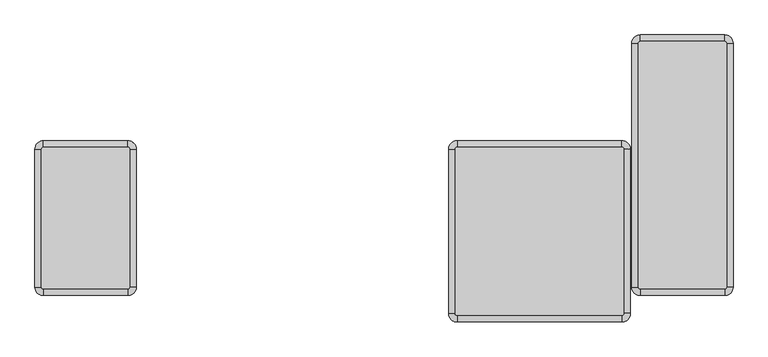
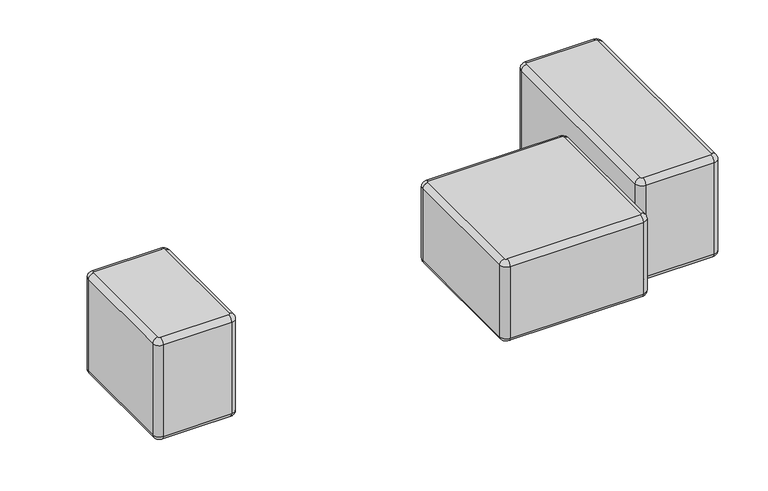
"""IFC4 building model written with IfcOpenShell, lengths in millimetres: furniture geometry, Blks_Mueb_Muuto_Sofá de 3 Plazas Softblocks : Único."""

from ifc_helpers import new_model, si_unit, point, frame, origin, place, context, project, spatial, circle_curve, ellipse_curve, trimmed, source, transform, mapped, element, save
from ifc_brep_helpers import plane_surface, cylinder_surface, revolved_surface, advanced_brep


def furniture_417ada3d(model_context):
    return source(origin(), model_context, "Body", "AdvancedBrep", [
        advanced_brep(
        [(1296.8131687, 511.6361706, 535.0), (1289.9760726, 518.4732668, 535.0), (969.9760726, 518.4732668, 535.0), (963.1389765, 511.6361706, 535.0), (963.1389765, -411.3638294, 535.0), (969.9760726, -418.2009255, 535.0), (1289.9760726, -418.2009255, 535.0), (1296.8131687, -411.3638294, 535.0), (1289.9760726, 518.4732668, 35.0), (1296.8131687, 511.6361706, 35.0), (1296.8131687, -411.3638294, 35.0), (1289.9760726, -418.2009255, 35.0), (969.9760726, -418.2009255, 35.0), (963.1389765, -411.3638294, 35.0), (963.1389765, 511.6361706, 35.0), (969.9760726, 518.4732668, 35.0), (1289.9760726, 543.4075429, 58.1884058), (1321.7474449, 511.6361706, 58.1884058), (1289.9760726, 543.4075429, 511.8115942), (1321.7474449, 511.6361706, 511.8115942), (1289.9760726, 551.6361706, 285.0000705), (1329.9760726, 511.6361706, 285.0000712), (969.9760726, 543.4075429, 58.1884058), (969.9760726, 543.4075429, 511.8115942), (969.9760726, 551.6361706, 285.0), (938.2047003, 511.6361706, 58.1884058), (938.2047003, 511.6361706, 511.8115942), (929.9760726, 511.6361706, 285.0000416), (938.2047003, -411.3638294, 58.1884058), (938.2047003, -411.3638294, 511.8115942), (929.9760726, -411.3638294, 285.0), (969.9760726, -443.1352016, 58.1884058), (969.9760726, -443.1352016, 511.8115942), (969.9760726, -451.3638294, 285.0000609), (1289.9760726, -443.1352016, 58.1884058), (1289.9760726, -443.1352016, 511.8115942), (1289.9760726, -451.3638294, 285.0), (1321.7474449, -411.3638294, 58.1884058), (1321.7474449, -411.3638294, 511.8115942), (1329.9760726, -411.3638294, 285.0000721)],
        [
            (0, 1, circle_curve(frame((1289.9760726, 511.6361706, 535.0), z_axis=(0.0, 0.0, 1.0), x_axis=(1.0, 0.0, 0.0)), 6.8370961)),
            (1, 2),
            (2, 3, circle_curve(frame((969.9760726, 511.6361706, 535.0), z_axis=(0.0, 0.0, 1.0), x_axis=(0.0, 1.0, 0.0)), 6.8370961)),
            (3, 4),
            (4, 5, circle_curve(frame((969.9760726, -411.3638294, 535.0), z_axis=(0.0, 0.0, 1.0), x_axis=(-1.0, 0.0, 0.0)), 6.8370961)),
            (5, 6),
            (6, 7, circle_curve(frame((1289.9760726, -411.3638294, 535.0), z_axis=(0.0, 0.0, 1.0), x_axis=(0.0, -1.0, 0.0)), 6.8370961)),
            (7, 0),
            (8, 9, circle_curve(frame((1289.9760726, 511.6361706, 35.0), z_axis=(0.0, 0.0, -1.0), x_axis=(1.0, 0.0, 0.0)), 6.8370961)),
            (9, 10),
            (10, 11, circle_curve(frame((1289.9760726, -411.3638294, 35.0), z_axis=(0.0, 0.0, -1.0), x_axis=(0.0, -1.0, 0.0)), 6.8370961)),
            (11, 12),
            (12, 13, circle_curve(frame((969.9760726, -411.3638294, 35.0), z_axis=(0.0, 0.0, -1.0), x_axis=(-1.0, 0.0, 0.0)), 6.8370961)),
            (13, 14),
            (14, 15, circle_curve(frame((969.9760726, 511.6361706, 35.0), z_axis=(0.0, 0.0, -1.0), x_axis=(0.0, 1.0, 0.0)), 6.8370961)),
            (15, 8),
            (8, 16, circle_curve(frame((1289.9760726, 518.4732668, 60.0), z_axis=(1.0, 0.0, 0.0), x_axis=(0.0, -1.0, 0.0)), 25.0)),
            (16, 17, circle_curve(frame((1289.9760726, 511.6361706, 58.1884058), z_axis=(0.0, 0.0, -1.0), x_axis=(1.0, 0.0, 0.0)), 31.7713723)),
            (17, 9, circle_curve(frame((1296.8131687, 511.6361706, 60.0), z_axis=(0.0, 1.0, 0.0), x_axis=(-1.0, 0.0, 0.0)), 25.0)),
            (18, 1, circle_curve(frame((1289.9760726, 518.4732668, 510.0), z_axis=(1.0, 0.0, 0.0), x_axis=(0.0, -1.0, 0.0)), 25.0)),
            (0, 19, circle_curve(frame((1296.8131687, 511.6361706, 510.0), z_axis=(0.0, 1.0, 0.0), x_axis=(-1.0, 0.0, 0.0)), 25.0)),
            (19, 18, circle_curve(frame((1289.9760726, 511.6361706, 511.8115942), z_axis=(0.0, 0.0, 1.0), x_axis=(1.0, 0.0, 0.0)), 31.7713723)),
            (16, 20, circle_curve(frame((1289.9760726, -2578.3638294, 285.0), z_axis=(1.0, 0.0, 0.0), x_axis=(0.0, -1.0, 0.0)), 3130.0)),
            (20, 18, circle_curve(frame((1289.9760726, -2578.3638294, 285.0), z_axis=(1.0, 0.0, 0.0), x_axis=(0.0, -1.0, 0.0)), 3130.0)),
            (19, 21, circle_curve(frame((-1800.0239274, 511.6361706, 285.0), z_axis=(0.0, 1.0, 0.0), x_axis=(-1.0, 0.0, 0.0)), 3130.0)),
            (21, 17, circle_curve(frame((-1800.0239274, 511.6361706, 285.0), z_axis=(0.0, 1.0, 0.0), x_axis=(-1.0, 0.0, 0.0)), 3130.0)),
            (15, 22, circle_curve(frame((969.9760726, 518.4732668, 60.0), z_axis=(1.0, 0.0, 0.0), x_axis=(0.0, -1.0, 0.0)), 25.0)),
            (22, 16),
            (18, 23),
            (23, 2, circle_curve(frame((969.9760726, 518.4732668, 510.0), z_axis=(1.0, 0.0, 0.0), x_axis=(0.0, -1.0, 0.0)), 25.0)),
            (22, 24, circle_curve(frame((969.9760726, -2578.3638294, 285.0), z_axis=(1.0, 0.0, 0.0), x_axis=(0.0, -1.0, 0.0)), 3130.0)),
            (24, 23, circle_curve(frame((969.9760726, -2578.3638294, 285.0), z_axis=(1.0, 0.0, 0.0), x_axis=(0.0, -1.0, 0.0)), 3130.0)),
            (14, 25, circle_curve(frame((963.1389765, 511.6361706, 60.0), z_axis=(0.0, 1.0, 0.0), x_axis=(1.0, 0.0, 0.0)), 25.0)),
            (25, 22, circle_curve(frame((969.9760726, 511.6361706, 58.1884058), z_axis=(0.0, 0.0, -1.0), x_axis=(0.0, 1.0, 0.0)), 31.7713723)),
            (23, 26, circle_curve(frame((969.9760726, 511.6361706, 511.8115942), z_axis=(0.0, 0.0, 1.0), x_axis=(0.0, 1.0, 0.0)), 31.7713723)),
            (26, 3, circle_curve(frame((963.1389765, 511.6361706, 510.0), z_axis=(0.0, 1.0, 0.0), x_axis=(1.0, 0.0, 0.0)), 25.0)),
            (25, 27, circle_curve(frame((4059.9760726, 511.6361706, 285.0), z_axis=(0.0, 1.0, 0.0), x_axis=(1.0, 0.0, 0.0)), 3130.0)),
            (27, 26, circle_curve(frame((4059.9760726, 511.6361706, 285.0), z_axis=(0.0, 1.0, 0.0), x_axis=(1.0, 0.0, 0.0)), 3130.0)),
            (13, 28, circle_curve(frame((963.1389765, -411.3638294, 60.0), z_axis=(0.0, 1.0, 0.0), x_axis=(1.0, 0.0, 0.0)), 25.0)),
            (28, 25),
            (26, 29),
            (29, 4, circle_curve(frame((963.1389765, -411.3638294, 510.0), z_axis=(0.0, 1.0, 0.0), x_axis=(1.0, 0.0, 0.0)), 25.0)),
            (28, 30, circle_curve(frame((4059.9760726, -411.3638294, 285.0), z_axis=(0.0, 1.0, 0.0), x_axis=(1.0, 0.0, 0.0)), 3130.0)),
            (30, 29, circle_curve(frame((4059.9760726, -411.3638294, 285.0), z_axis=(0.0, 1.0, 0.0), x_axis=(1.0, 0.0, 0.0)), 3130.0)),
            (12, 31, circle_curve(frame((969.9760726, -418.2009255, 60.0), z_axis=(-1.0, 0.0, 0.0), x_axis=(0.0, 1.0, 0.0)), 25.0)),
            (31, 28, circle_curve(frame((969.9760726, -411.3638294, 58.1884058), z_axis=(0.0, 0.0, -1.0), x_axis=(-1.0, 0.0, 0.0)), 31.7713723)),
            (29, 32, circle_curve(frame((969.9760726, -411.3638294, 511.8115942), z_axis=(0.0, 0.0, 1.0), x_axis=(-1.0, 0.0, 0.0)), 31.7713723)),
            (32, 5, circle_curve(frame((969.9760726, -418.2009255, 510.0), z_axis=(-1.0, 0.0, 0.0), x_axis=(0.0, 1.0, 0.0)), 25.0)),
            (31, 33, circle_curve(frame((969.9760726, 2678.6361706, 285.0), z_axis=(-1.0, 0.0, 0.0), x_axis=(0.0, 1.0, 0.0)), 3130.0)),
            (33, 32, circle_curve(frame((969.9760726, 2678.6361706, 285.0), z_axis=(-1.0, 0.0, 0.0), x_axis=(0.0, 1.0, 0.0)), 3130.0)),
            (11, 34, circle_curve(frame((1289.9760726, -418.2009255, 60.0), z_axis=(-1.0, 0.0, 0.0), x_axis=(0.0, 1.0, 0.0)), 25.0)),
            (34, 31),
            (32, 35),
            (35, 6, circle_curve(frame((1289.9760726, -418.2009255, 510.0), z_axis=(-1.0, 0.0, 0.0), x_axis=(0.0, 1.0, 0.0)), 25.0)),
            (34, 36, circle_curve(frame((1289.9760726, 2678.6361706, 285.0), z_axis=(-1.0, 0.0, 0.0), x_axis=(0.0, 1.0, 0.0)), 3130.0)),
            (36, 35, circle_curve(frame((1289.9760726, 2678.6361706, 285.0), z_axis=(-1.0, 0.0, 0.0), x_axis=(0.0, 1.0, 0.0)), 3130.0)),
            (10, 37, circle_curve(frame((1296.8131687, -411.3638294, 60.0), z_axis=(0.0, -1.0, 0.0), x_axis=(-1.0, 0.0, 0.0)), 25.0)),
            (37, 34, circle_curve(frame((1289.9760726, -411.3638294, 58.1884058), z_axis=(0.0, 0.0, -1.0), x_axis=(0.0, -1.0, 0.0)), 31.7713723)),
            (35, 38, circle_curve(frame((1289.9760726, -411.3638294, 511.8115942), z_axis=(0.0, 0.0, 1.0), x_axis=(0.0, -1.0, 0.0)), 31.7713723)),
            (38, 7, circle_curve(frame((1296.8131687, -411.3638294, 510.0), z_axis=(0.0, -1.0, 0.0), x_axis=(-1.0, 0.0, 0.0)), 25.0)),
            (37, 39, circle_curve(frame((-1800.0239274, -411.3638294, 285.0), z_axis=(0.0, -1.0, 0.0), x_axis=(-1.0, 0.0, 0.0)), 3130.0)),
            (39, 38, circle_curve(frame((-1800.0239274, -411.3638294, 285.0), z_axis=(0.0, -1.0, 0.0), x_axis=(-1.0, 0.0, 0.0)), 3130.0)),
            (17, 37),
            (38, 19),
        ],
        [
            plane_surface(frame((1009.9760726, -411.3638294, 535.0), z_axis=(0.0, 0.0, 1.0), x_axis=(0.0, 1.0, 0.0))),
            plane_surface(frame((1009.9760726, -411.3638294, 35.0), z_axis=(0.0, 0.0, -1.0), x_axis=(0.0, -1.0, 0.0))),
            revolved_surface(trimmed(ellipse_curve(frame((1296.8131687, 511.6361706, 60.0), z_axis=(0.0, -1.0, 0.0), x_axis=(-1.0, 0.0, 0.0)), 25.0, 25.0), [point((1296.8131687, 511.6361706, 35.0))], [point((1321.7474449, 511.6361706, 58.1884058))], True, "CARTESIAN"), (1289.9760726, 511.6361706, 535.0), (0.0, 0.0, 1.0)),
            revolved_surface(trimmed(ellipse_curve(frame((1296.8131687, 511.6361706, 510.0), z_axis=(0.0, -1.0, 0.0), x_axis=(-1.0, 0.0, 0.0)), 25.0, 25.0), [point((1321.7474449, 511.6361706, 511.8115942))], [point((1296.8131687, 511.6361706, 535.0))], True, "CARTESIAN"), (1289.9760726, 511.6361706, 535.0), (0.0, 0.0, 1.0)),
            revolved_surface(trimmed(ellipse_curve(frame((-1800.0239274, 511.6361706, 285.0), z_axis=(0.0, -1.0, 0.0), x_axis=(-1.0, 0.0, 0.0)), 3130.0, 3130.0), [point((1321.7474449, 511.6361706, 58.1884058))], [point((1321.7474449, 511.6361706, 511.8115942))], True, "CARTESIAN"), (1289.9760726, 511.6361706, 535.0), (0.0, 0.0, 1.0)),
            cylinder_surface(frame((1289.9760726, 518.4732668, 60.0), z_axis=(-1.0, 0.0, 0.0), x_axis=(0.0, -1.0, 0.0)), 25.0),
            cylinder_surface(frame((1289.9760726, 518.4732668, 510.0), z_axis=(-1.0, 0.0, 0.0), x_axis=(0.0, -1.0, 0.0)), 25.0),
            cylinder_surface(frame((1289.9760726, -2578.3638294, 285.0), z_axis=(-1.0, 0.0, 0.0), x_axis=(0.0, -1.0, 0.0)), 3130.0),
            revolved_surface(trimmed(ellipse_curve(frame((969.9760726, 518.4732668, 60.0), z_axis=(1.0, 0.0, 0.0), x_axis=(0.0, -1.0, 0.0)), 25.0, 25.0), [point((969.9760726, 518.4732668, 35.0))], [point((969.9760726, 543.4075429, 58.1884058))], True, "CARTESIAN"), (969.9760726, 511.6361706, 535.0), (0.0, 0.0, 1.0)),
            revolved_surface(trimmed(ellipse_curve(frame((969.9760726, 518.4732668, 510.0), z_axis=(1.0, 0.0, 0.0), x_axis=(0.0, -1.0, 0.0)), 25.0, 25.0), [point((969.9760726, 543.4075429, 511.8115942))], [point((969.9760726, 518.4732668, 535.0))], True, "CARTESIAN"), (969.9760726, 511.6361706, 535.0), (0.0, 0.0, 1.0)),
            revolved_surface(trimmed(ellipse_curve(frame((969.9760726, -2578.3638294, 285.0), z_axis=(1.0, 0.0, 0.0), x_axis=(0.0, -1.0, 0.0)), 3130.0, 3130.0), [point((969.9760726, 543.4075429, 58.1884058))], [point((969.9760726, 543.4075429, 511.8115942))], True, "CARTESIAN"), (969.9760726, 511.6361706, 535.0), (0.0, 0.0, 1.0)),
            cylinder_surface(frame((963.1389765, 511.6361706, 60.0), z_axis=(0.0, -1.0, 0.0), x_axis=(1.0, 0.0, 0.0)), 25.0),
            cylinder_surface(frame((963.1389765, 511.6361706, 510.0), z_axis=(0.0, -1.0, 0.0), x_axis=(1.0, 0.0, 0.0)), 25.0),
            cylinder_surface(frame((4059.9760726, 511.6361706, 285.0), z_axis=(0.0, -1.0, 0.0), x_axis=(1.0, 0.0, 0.0)), 3130.0),
            revolved_surface(trimmed(ellipse_curve(frame((963.1389765, -411.3638294, 60.0), z_axis=(0.0, 1.0, 0.0), x_axis=(1.0, 0.0, 0.0)), 25.0, 25.0), [point((963.1389765, -411.3638294, 35.0))], [point((938.2047003, -411.3638294, 58.1884058))], True, "CARTESIAN"), (969.9760726, -411.3638294, 535.0), (0.0, 0.0, 1.0)),
            revolved_surface(trimmed(ellipse_curve(frame((963.1389765, -411.3638294, 510.0), z_axis=(0.0, 1.0, 0.0), x_axis=(1.0, 0.0, 0.0)), 25.0, 25.0), [point((938.2047003, -411.3638294, 511.8115942))], [point((963.1389765, -411.3638294, 535.0))], True, "CARTESIAN"), (969.9760726, -411.3638294, 535.0), (0.0, 0.0, 1.0)),
            revolved_surface(trimmed(ellipse_curve(frame((4059.9760726, -411.3638294, 285.0), z_axis=(0.0, 1.0, 0.0), x_axis=(1.0, 0.0, 0.0)), 3130.0, 3130.0), [point((938.2047003, -411.3638294, 58.1884058))], [point((938.2047003, -411.3638294, 511.8115942))], True, "CARTESIAN"), (969.9760726, -411.3638294, 535.0), (0.0, 0.0, 1.0)),
            cylinder_surface(frame((969.9760726, -418.2009255, 60.0), z_axis=(1.0, 0.0, 0.0), x_axis=(0.0, 1.0, 0.0)), 25.0),
            cylinder_surface(frame((969.9760726, -418.2009255, 510.0), z_axis=(1.0, 0.0, 0.0), x_axis=(0.0, 1.0, 0.0)), 25.0),
            cylinder_surface(frame((969.9760726, 2678.6361706, 285.0), z_axis=(1.0, 0.0, 0.0), x_axis=(0.0, 1.0, 0.0)), 3130.0),
            revolved_surface(trimmed(ellipse_curve(frame((1289.9760726, -418.2009255, 60.0), z_axis=(-1.0, 0.0, 0.0), x_axis=(0.0, 1.0, 0.0)), 25.0, 25.0), [point((1289.9760726, -418.2009255, 35.0))], [point((1289.9760726, -443.1352016, 58.1884058))], True, "CARTESIAN"), (1289.9760726, -411.3638294, 535.0), (0.0, 0.0, 1.0)),
            revolved_surface(trimmed(ellipse_curve(frame((1289.9760726, -418.2009255, 510.0), z_axis=(-1.0, 0.0, 0.0), x_axis=(0.0, 1.0, 0.0)), 25.0, 25.0), [point((1289.9760726, -443.1352016, 511.8115942))], [point((1289.9760726, -418.2009255, 535.0))], True, "CARTESIAN"), (1289.9760726, -411.3638294, 535.0), (0.0, 0.0, 1.0)),
            revolved_surface(trimmed(ellipse_curve(frame((1289.9760726, 2678.6361706, 285.0), z_axis=(-1.0, 0.0, 0.0), x_axis=(0.0, 1.0, 0.0)), 3130.0, 3130.0), [point((1289.9760726, -443.1352016, 58.1884058))], [point((1289.9760726, -443.1352016, 511.8115942))], True, "CARTESIAN"), (1289.9760726, -411.3638294, 535.0), (0.0, 0.0, 1.0)),
            cylinder_surface(frame((1296.8131687, -411.3638294, 60.0), z_axis=(0.0, 1.0, 0.0), x_axis=(-1.0, 0.0, 0.0)), 25.0),
            cylinder_surface(frame((1296.8131687, -411.3638294, 510.0), z_axis=(0.0, 1.0, 0.0), x_axis=(-1.0, 0.0, 0.0)), 25.0),
            cylinder_surface(frame((-1800.0239274, -411.3638294, 285.0), z_axis=(0.0, 1.0, 0.0), x_axis=(-1.0, 0.0, 0.0)), 3130.0),
        ],
        [
            (0, [[1, 2, 3, 4, 5, 6, 7, 8]]),
            (1, [[9, 10, 11, 12, 13, 14, 15, 16]]),
            (2, [[17, 18, 19, -9]]),
            (3, [[20, -1, 21, 22]]),
            (4, [[-18, 23, 24, -22, 25, 26]]),
            (5, [[-17, -16, 27, 28]]),
            (6, [[-20, 29, 30, -2]]),
            (7, [[-28, 31, 32, -29, -24, -23]]),
            (8, [[-27, -15, 33, 34]]),
            (9, [[-30, 35, 36, -3]]),
            (10, [[-34, 37, 38, -35, -32, -31]]),
            (11, [[-33, -14, 39, 40]]),
            (12, [[-36, 41, 42, -4]]),
            (13, [[-40, 43, 44, -41, -38, -37]]),
            (14, [[-39, -13, 45, 46]]),
            (15, [[-42, 47, 48, -5]]),
            (16, [[-46, 49, 50, -47, -44, -43]]),
            (17, [[-45, -12, 51, 52]]),
            (18, [[-48, 53, 54, -6]]),
            (19, [[-52, 55, 56, -53, -50, -49]]),
            (20, [[-51, -11, 57, 58]]),
            (21, [[-54, 59, 60, -7]]),
            (22, [[-58, 61, 62, -59, -56, -55]]),
            (23, [[-19, 63, -57, -10]]),
            (24, [[-21, -8, -60, 64]]),
            (25, [[-63, -26, -25, -64, -62, -61]]),
        ],
    ),
        advanced_brep(
        [(-963.1145999, 110.8861706, 535.0), (-969.951696, 117.7232668, 535.0), (-1289.951696, 117.7232668, 535.0), (-1296.7887921, 110.8861706, 535.0), (-1296.7887921, -411.3638294, 535.0), (-1289.951696, -418.2009255, 535.0), (-969.951696, -418.2009255, 535.0), (-963.1145999, -411.3638294, 535.0), (-969.951696, 117.7232668, 35.0), (-963.1145999, 110.8861706, 35.0), (-963.1145999, -411.3638294, 35.0), (-969.951696, -418.2009255, 35.0), (-1289.951696, -418.2009255, 35.0), (-1296.7887921, -411.3638294, 35.0), (-1296.7887921, 110.8861706, 35.0), (-1289.951696, 117.7232668, 35.0), (-969.951696, 142.6575429, 58.1884058), (-938.1803237, 110.8861706, 58.1884058), (-969.951696, 142.6575429, 511.8115942), (-938.1803237, 110.8861706, 511.8115942), (-969.951696, 150.8861706, 284.9999051), (-929.951696, 110.8861706, 284.9999174), (-1289.951696, 142.6575429, 58.1884058), (-1289.951696, 142.6575429, 511.8115942), (-1289.951696, 150.8861706, 285.0), (-1321.7230683, 110.8861706, 58.1884058), (-1321.7230683, 110.8861706, 511.8115942), (-1329.951696, 110.8861706, 284.9999228), (-1321.7230683, -411.3638294, 58.1884058), (-1321.7230683, -411.3638294, 511.8115942), (-1329.951696, -411.3638294, 285.0), (-1289.951696, -443.1352016, 58.1884058), (-1289.951696, -443.1352016, 511.8115942), (-1289.951696, -451.3638294, 284.9999051), (-969.951696, -443.1352016, 58.1884058), (-969.951696, -443.1352016, 511.8115942), (-969.951696, -451.3638294, 285.0), (-938.1803237, -411.3638294, 58.1884058), (-938.1803237, -411.3638294, 511.8115942), (-929.951696, -411.3638294, 284.9999308)],
        [
            (0, 1, circle_curve(frame((-969.951696, 110.8861706, 535.0), z_axis=(0.0, 0.0, 1.0), x_axis=(1.0, 0.0, 0.0)), 6.8370961)),
            (1, 2),
            (2, 3, circle_curve(frame((-1289.951696, 110.8861706, 535.0), z_axis=(0.0, 0.0, 1.0), x_axis=(0.0, 1.0, 0.0)), 6.8370961)),
            (3, 4),
            (4, 5, circle_curve(frame((-1289.951696, -411.3638294, 535.0), z_axis=(0.0, 0.0, 1.0), x_axis=(-1.0, 0.0, 0.0)), 6.8370961)),
            (5, 6),
            (6, 7, circle_curve(frame((-969.951696, -411.3638294, 535.0), z_axis=(0.0, 0.0, 1.0), x_axis=(0.0, -1.0, 0.0)), 6.8370961)),
            (7, 0),
            (8, 9, circle_curve(frame((-969.951696, 110.8861706, 35.0), z_axis=(0.0, 0.0, -1.0), x_axis=(1.0, 0.0, 0.0)), 6.8370961)),
            (9, 10),
            (10, 11, circle_curve(frame((-969.951696, -411.3638294, 35.0), z_axis=(0.0, 0.0, -1.0), x_axis=(0.0, -1.0, 0.0)), 6.8370961)),
            (11, 12),
            (12, 13, circle_curve(frame((-1289.951696, -411.3638294, 35.0), z_axis=(0.0, 0.0, -1.0), x_axis=(-1.0, 0.0, 0.0)), 6.8370961)),
            (13, 14),
            (14, 15, circle_curve(frame((-1289.951696, 110.8861706, 35.0), z_axis=(0.0, 0.0, -1.0), x_axis=(0.0, 1.0, 0.0)), 6.8370961)),
            (15, 8),
            (8, 16, circle_curve(frame((-969.951696, 117.7232668, 60.0), z_axis=(1.0, 0.0, 0.0), x_axis=(0.0, -1.0, 0.0)), 25.0)),
            (16, 17, circle_curve(frame((-969.951696, 110.8861706, 58.1884058), z_axis=(0.0, 0.0, -1.0), x_axis=(1.0, 0.0, 0.0)), 31.7713723)),
            (17, 9, circle_curve(frame((-963.1145999, 110.8861706, 60.0), z_axis=(0.0, 1.0, 0.0), x_axis=(-1.0, 0.0, 0.0)), 25.0)),
            (18, 1, circle_curve(frame((-969.951696, 117.7232668, 510.0), z_axis=(1.0, 0.0, 0.0), x_axis=(0.0, -1.0, 0.0)), 25.0)),
            (0, 19, circle_curve(frame((-963.1145999, 110.8861706, 510.0), z_axis=(0.0, 1.0, 0.0), x_axis=(-1.0, 0.0, 0.0)), 25.0)),
            (19, 18, circle_curve(frame((-969.951696, 110.8861706, 511.8115942), z_axis=(0.0, 0.0, 1.0), x_axis=(1.0, 0.0, 0.0)), 31.7713723)),
            (16, 20, circle_curve(frame((-969.951696, -2979.1138294, 285.0), z_axis=(1.0, 0.0, 0.0), x_axis=(0.0, -1.0, 0.0)), 3130.0)),
            (20, 18, circle_curve(frame((-969.951696, -2979.1138294, 285.0), z_axis=(1.0, 0.0, 0.0), x_axis=(0.0, -1.0, 0.0)), 3130.0)),
            (19, 21, circle_curve(frame((-4059.951696, 110.8861706, 285.0), z_axis=(0.0, 1.0, 0.0), x_axis=(-1.0, 0.0, 0.0)), 3130.0)),
            (21, 17, circle_curve(frame((-4059.951696, 110.8861706, 285.0), z_axis=(0.0, 1.0, 0.0), x_axis=(-1.0, 0.0, 0.0)), 3130.0)),
            (15, 22, circle_curve(frame((-1289.951696, 117.7232668, 60.0), z_axis=(1.0, 0.0, 0.0), x_axis=(0.0, -1.0, 0.0)), 25.0)),
            (22, 16),
            (18, 23),
            (23, 2, circle_curve(frame((-1289.951696, 117.7232668, 510.0), z_axis=(1.0, 0.0, 0.0), x_axis=(0.0, -1.0, 0.0)), 25.0)),
            (22, 24, circle_curve(frame((-1289.951696, -2979.1138294, 285.0), z_axis=(1.0, 0.0, 0.0), x_axis=(0.0, -1.0, 0.0)), 3130.0)),
            (24, 23, circle_curve(frame((-1289.951696, -2979.1138294, 285.0), z_axis=(1.0, 0.0, 0.0), x_axis=(0.0, -1.0, 0.0)), 3130.0)),
            (14, 25, circle_curve(frame((-1296.7887921, 110.8861706, 60.0), z_axis=(0.0, 1.0, 0.0), x_axis=(1.0, 0.0, 0.0)), 25.0)),
            (25, 22, circle_curve(frame((-1289.951696, 110.8861706, 58.1884058), z_axis=(0.0, 0.0, -1.0), x_axis=(0.0, 1.0, 0.0)), 31.7713723)),
            (23, 26, circle_curve(frame((-1289.951696, 110.8861706, 511.8115942), z_axis=(0.0, 0.0, 1.0), x_axis=(0.0, 1.0, 0.0)), 31.7713723)),
            (26, 3, circle_curve(frame((-1296.7887921, 110.8861706, 510.0), z_axis=(0.0, 1.0, 0.0), x_axis=(1.0, 0.0, 0.0)), 25.0)),
            (25, 27, circle_curve(frame((1800.048304, 110.8861706, 285.0), z_axis=(0.0, 1.0, 0.0), x_axis=(1.0, 0.0, 0.0)), 3130.0)),
            (27, 26, circle_curve(frame((1800.048304, 110.8861706, 285.0), z_axis=(0.0, 1.0, 0.0), x_axis=(1.0, 0.0, 0.0)), 3130.0)),
            (13, 28, circle_curve(frame((-1296.7887921, -411.3638294, 60.0), z_axis=(0.0, 1.0, 0.0), x_axis=(1.0, 0.0, 0.0)), 25.0)),
            (28, 25),
            (26, 29),
            (29, 4, circle_curve(frame((-1296.7887921, -411.3638294, 510.0), z_axis=(0.0, 1.0, 0.0), x_axis=(1.0, 0.0, 0.0)), 25.0)),
            (28, 30, circle_curve(frame((1800.048304, -411.3638294, 285.0), z_axis=(0.0, 1.0, 0.0), x_axis=(1.0, 0.0, 0.0)), 3130.0)),
            (30, 29, circle_curve(frame((1800.048304, -411.3638294, 285.0), z_axis=(0.0, 1.0, 0.0), x_axis=(1.0, 0.0, 0.0)), 3130.0)),
            (12, 31, circle_curve(frame((-1289.951696, -418.2009255, 60.0), z_axis=(-1.0, 0.0, 0.0), x_axis=(0.0, 1.0, 0.0)), 25.0)),
            (31, 28, circle_curve(frame((-1289.951696, -411.3638294, 58.1884058), z_axis=(0.0, 0.0, -1.0), x_axis=(-1.0, 0.0, 0.0)), 31.7713723)),
            (29, 32, circle_curve(frame((-1289.951696, -411.3638294, 511.8115942), z_axis=(0.0, 0.0, 1.0), x_axis=(-1.0, 0.0, 0.0)), 31.7713723)),
            (32, 5, circle_curve(frame((-1289.951696, -418.2009255, 510.0), z_axis=(-1.0, 0.0, 0.0), x_axis=(0.0, 1.0, 0.0)), 25.0)),
            (31, 33, circle_curve(frame((-1289.951696, 2678.6361706, 285.0), z_axis=(-1.0, 0.0, 0.0), x_axis=(0.0, 1.0, 0.0)), 3130.0)),
            (33, 32, circle_curve(frame((-1289.951696, 2678.6361706, 285.0), z_axis=(-1.0, 0.0, 0.0), x_axis=(0.0, 1.0, 0.0)), 3130.0)),
            (11, 34, circle_curve(frame((-969.951696, -418.2009255, 60.0), z_axis=(-1.0, 0.0, 0.0), x_axis=(0.0, 1.0, 0.0)), 25.0)),
            (34, 31),
            (32, 35),
            (35, 6, circle_curve(frame((-969.951696, -418.2009255, 510.0), z_axis=(-1.0, 0.0, 0.0), x_axis=(0.0, 1.0, 0.0)), 25.0)),
            (34, 36, circle_curve(frame((-969.951696, 2678.6361706, 285.0), z_axis=(-1.0, 0.0, 0.0), x_axis=(0.0, 1.0, 0.0)), 3130.0)),
            (36, 35, circle_curve(frame((-969.951696, 2678.6361706, 285.0), z_axis=(-1.0, 0.0, 0.0), x_axis=(0.0, 1.0, 0.0)), 3130.0)),
            (10, 37, circle_curve(frame((-963.1145999, -411.3638294, 60.0), z_axis=(0.0, -1.0, 0.0), x_axis=(-1.0, 0.0, 0.0)), 25.0)),
            (37, 34, circle_curve(frame((-969.951696, -411.3638294, 58.1884058), z_axis=(0.0, 0.0, -1.0), x_axis=(0.0, -1.0, 0.0)), 31.7713723)),
            (35, 38, circle_curve(frame((-969.951696, -411.3638294, 511.8115942), z_axis=(0.0, 0.0, 1.0), x_axis=(0.0, -1.0, 0.0)), 31.7713723)),
            (38, 7, circle_curve(frame((-963.1145999, -411.3638294, 510.0), z_axis=(0.0, -1.0, 0.0), x_axis=(-1.0, 0.0, 0.0)), 25.0)),
            (37, 39, circle_curve(frame((-4059.951696, -411.3638294, 285.0), z_axis=(0.0, -1.0, 0.0), x_axis=(-1.0, 0.0, 0.0)), 3130.0)),
            (39, 38, circle_curve(frame((-4059.951696, -411.3638294, 285.0), z_axis=(0.0, -1.0, 0.0), x_axis=(-1.0, 0.0, 0.0)), 3130.0)),
            (17, 37),
            (38, 19),
        ],
        [
            plane_surface(frame((-1249.951696, -411.3638294, 535.0), z_axis=(0.0, 0.0, 1.0), x_axis=(0.0, 1.0, 0.0))),
            plane_surface(frame((-1249.951696, -411.3638294, 35.0), z_axis=(0.0, 0.0, -1.0), x_axis=(0.0, -1.0, 0.0))),
            revolved_surface(trimmed(ellipse_curve(frame((-963.1145999, 110.8861706, 60.0), z_axis=(0.0, -1.0, 0.0), x_axis=(-1.0, 0.0, 0.0)), 25.0, 25.0), [point((-963.1145999, 110.8861706, 35.0))], [point((-938.1803237, 110.8861706, 58.1884058))], True, "CARTESIAN"), (-969.951696, 110.8861706, 535.0), (0.0, 0.0, 1.0)),
            revolved_surface(trimmed(ellipse_curve(frame((-963.1145999, 110.8861706, 510.0), z_axis=(0.0, -1.0, 0.0), x_axis=(-1.0, 0.0, 0.0)), 25.0, 25.0), [point((-938.1803237, 110.8861706, 511.8115942))], [point((-963.1145999, 110.8861706, 535.0))], True, "CARTESIAN"), (-969.951696, 110.8861706, 535.0), (0.0, 0.0, 1.0)),
            revolved_surface(trimmed(ellipse_curve(frame((-4059.951696, 110.8861706, 285.0), z_axis=(0.0, -1.0, 0.0), x_axis=(-1.0, 0.0, 0.0)), 3130.0, 3130.0), [point((-938.1803237, 110.8861706, 58.1884058))], [point((-938.1803237, 110.8861706, 511.8115942))], True, "CARTESIAN"), (-969.951696, 110.8861706, 535.0), (0.0, 0.0, 1.0)),
            cylinder_surface(frame((-969.951696, 117.7232668, 60.0), z_axis=(-1.0, 0.0, 0.0), x_axis=(0.0, -1.0, 0.0)), 25.0),
            cylinder_surface(frame((-969.951696, 117.7232668, 510.0), z_axis=(-1.0, 0.0, 0.0), x_axis=(0.0, -1.0, 0.0)), 25.0),
            cylinder_surface(frame((-969.951696, -2979.1138294, 285.0), z_axis=(-1.0, 0.0, 0.0), x_axis=(0.0, -1.0, 0.0)), 3130.0),
            revolved_surface(trimmed(ellipse_curve(frame((-1289.951696, 117.7232668, 60.0), z_axis=(1.0, 0.0, 0.0), x_axis=(0.0, -1.0, 0.0)), 25.0, 25.0), [point((-1289.951696, 117.7232668, 35.0))], [point((-1289.951696, 142.6575429, 58.1884058))], True, "CARTESIAN"), (-1289.951696, 110.8861706, 535.0), (0.0, 0.0, 1.0)),
            revolved_surface(trimmed(ellipse_curve(frame((-1289.951696, 117.7232668, 510.0), z_axis=(1.0, 0.0, 0.0), x_axis=(0.0, -1.0, 0.0)), 25.0, 25.0), [point((-1289.951696, 142.6575429, 511.8115942))], [point((-1289.951696, 117.7232668, 535.0))], True, "CARTESIAN"), (-1289.951696, 110.8861706, 535.0), (0.0, 0.0, 1.0)),
            revolved_surface(trimmed(ellipse_curve(frame((-1289.951696, -2979.1138294, 285.0), z_axis=(1.0, 0.0, 0.0), x_axis=(0.0, -1.0, 0.0)), 3130.0, 3130.0), [point((-1289.951696, 142.6575429, 58.1884058))], [point((-1289.951696, 142.6575429, 511.8115942))], True, "CARTESIAN"), (-1289.951696, 110.8861706, 535.0), (0.0, 0.0, 1.0)),
            cylinder_surface(frame((-1296.7887921, 110.8861706, 60.0), z_axis=(0.0, -1.0, 0.0), x_axis=(1.0, 0.0, 0.0)), 25.0),
            cylinder_surface(frame((-1296.7887921, 110.8861706, 510.0), z_axis=(0.0, -1.0, 0.0), x_axis=(1.0, 0.0, 0.0)), 25.0),
            cylinder_surface(frame((1800.048304, 110.8861706, 285.0), z_axis=(0.0, -1.0, 0.0), x_axis=(1.0, 0.0, 0.0)), 3130.0),
            revolved_surface(trimmed(ellipse_curve(frame((-1296.7887921, -411.3638294, 60.0), z_axis=(0.0, 1.0, 0.0), x_axis=(1.0, 0.0, 0.0)), 25.0, 25.0), [point((-1296.7887921, -411.3638294, 35.0))], [point((-1321.7230683, -411.3638294, 58.1884058))], True, "CARTESIAN"), (-1289.951696, -411.3638294, 535.0), (0.0, 0.0, 1.0)),
            revolved_surface(trimmed(ellipse_curve(frame((-1296.7887921, -411.3638294, 510.0), z_axis=(0.0, 1.0, 0.0), x_axis=(1.0, 0.0, 0.0)), 25.0, 25.0), [point((-1321.7230683, -411.3638294, 511.8115942))], [point((-1296.7887921, -411.3638294, 535.0))], True, "CARTESIAN"), (-1289.951696, -411.3638294, 535.0), (0.0, 0.0, 1.0)),
            revolved_surface(trimmed(ellipse_curve(frame((1800.048304, -411.3638294, 285.0), z_axis=(0.0, 1.0, 0.0), x_axis=(1.0, 0.0, 0.0)), 3130.0, 3130.0), [point((-1321.7230683, -411.3638294, 58.1884058))], [point((-1321.7230683, -411.3638294, 511.8115942))], True, "CARTESIAN"), (-1289.951696, -411.3638294, 535.0), (0.0, 0.0, 1.0)),
            cylinder_surface(frame((-1289.951696, -418.2009255, 60.0), z_axis=(1.0, 0.0, 0.0), x_axis=(0.0, 1.0, 0.0)), 25.0),
            cylinder_surface(frame((-1289.951696, -418.2009255, 510.0), z_axis=(1.0, 0.0, 0.0), x_axis=(0.0, 1.0, 0.0)), 25.0),
            cylinder_surface(frame((-1289.951696, 2678.6361706, 285.0), z_axis=(1.0, 0.0, 0.0), x_axis=(0.0, 1.0, 0.0)), 3130.0),
            revolved_surface(trimmed(ellipse_curve(frame((-969.951696, -418.2009255, 60.0), z_axis=(-1.0, 0.0, 0.0), x_axis=(0.0, 1.0, 0.0)), 25.0, 25.0), [point((-969.951696, -418.2009255, 35.0))], [point((-969.951696, -443.1352016, 58.1884058))], True, "CARTESIAN"), (-969.951696, -411.3638294, 535.0), (0.0, 0.0, 1.0)),
            revolved_surface(trimmed(ellipse_curve(frame((-969.951696, -418.2009255, 510.0), z_axis=(-1.0, 0.0, 0.0), x_axis=(0.0, 1.0, 0.0)), 25.0, 25.0), [point((-969.951696, -443.1352016, 511.8115942))], [point((-969.951696, -418.2009255, 535.0))], True, "CARTESIAN"), (-969.951696, -411.3638294, 535.0), (0.0, 0.0, 1.0)),
            revolved_surface(trimmed(ellipse_curve(frame((-969.951696, 2678.6361706, 285.0), z_axis=(-1.0, 0.0, 0.0), x_axis=(0.0, 1.0, 0.0)), 3130.0, 3130.0), [point((-969.951696, -443.1352016, 58.1884058))], [point((-969.951696, -443.1352016, 511.8115942))], True, "CARTESIAN"), (-969.951696, -411.3638294, 535.0), (0.0, 0.0, 1.0)),
            cylinder_surface(frame((-963.1145999, -411.3638294, 60.0), z_axis=(0.0, 1.0, 0.0), x_axis=(-1.0, 0.0, 0.0)), 25.0),
            cylinder_surface(frame((-963.1145999, -411.3638294, 510.0), z_axis=(0.0, 1.0, 0.0), x_axis=(-1.0, 0.0, 0.0)), 25.0),
            cylinder_surface(frame((-4059.951696, -411.3638294, 285.0), z_axis=(0.0, 1.0, 0.0), x_axis=(-1.0, 0.0, 0.0)), 3130.0),
        ],
        [
            (0, [[1, 2, 3, 4, 5, 6, 7, 8]]),
            (1, [[9, 10, 11, 12, 13, 14, 15, 16]]),
            (2, [[17, 18, 19, -9]]),
            (3, [[20, -1, 21, 22]]),
            (4, [[-18, 23, 24, -22, 25, 26]]),
            (5, [[-17, -16, 27, 28]]),
            (6, [[-20, 29, 30, -2]]),
            (7, [[-28, 31, 32, -29, -24, -23]]),
            (8, [[-27, -15, 33, 34]]),
            (9, [[-30, 35, 36, -3]]),
            (10, [[-34, 37, 38, -35, -32, -31]]),
            (11, [[-33, -14, 39, 40]]),
            (12, [[-36, 41, 42, -4]]),
            (13, [[-40, 43, 44, -41, -38, -37]]),
            (14, [[-39, -13, 45, 46]]),
            (15, [[-42, 47, 48, -5]]),
            (16, [[-46, 49, 50, -47, -44, -43]]),
            (17, [[-45, -12, 51, 52]]),
            (18, [[-48, 53, 54, -6]]),
            (19, [[-52, 55, 56, -53, -50, -49]]),
            (20, [[-51, -11, 57, 58]]),
            (21, [[-54, 59, 60, -7]]),
            (22, [[-58, 61, 62, -59, -56, -55]]),
            (23, [[-19, 63, -57, -10]]),
            (24, [[-21, -8, -60, 64]]),
            (25, [[-63, -26, -25, -64, -62, -61]]),
        ],
    ),
        advanced_brep(
        [(276.7070326, 118.1374224, 435.0), (269.4557809, 110.8861706, 435.0), (269.4557809, -511.3638294, 435.0), (276.7070326, -518.6150811, 435.0), (900.3697433, -518.6150811, 435.0), (907.620995, -511.3638294, 435.0), (907.620995, 110.8861706, 435.0), (900.3697433, 118.1374224, 435.0), (269.4557809, 110.8861706, 35.0), (276.7070326, 118.1374224, 35.0), (900.3697433, 118.1374224, 35.0), (907.620995, 110.8861706, 35.0), (907.620995, -511.3638294, 35.0), (900.3697433, -518.6150811, 35.0), (276.7070326, -518.6150811, 35.0), (269.4557809, -511.3638294, 35.0), (244.5536186, 110.8861706, 412.209596), (276.7070326, 143.0395846, 412.209596), (276.7070326, 150.8861706, 235.0001156), (276.7070326, 143.0395846, 57.790404), (244.5536186, 110.8861706, 57.790404), (236.7070326, 110.8861706, 235.0000948), (244.5536186, -511.3638294, 57.790404), (236.7070326, -511.3638294, 235.0), (244.5536186, -511.3638294, 412.209596), (276.7070326, -543.5172434, 412.209596), (276.7070326, -543.5172434, 57.790404), (276.7070326, -551.3638294, 235.0000933), (900.3697433, -543.5172434, 57.790404), (900.3697433, -551.3638294, 235.0), (900.3697433, -543.5172434, 412.209596), (932.5231573, -511.3638294, 412.209596), (932.5231573, -511.3638294, 57.790404), (940.3697433, -511.3638294, 235.0000856), (932.5231573, 110.8861706, 57.790404), (940.3697433, 110.8861706, 235.0), (932.5231573, 110.8861706, 412.209596), (900.3697433, 143.0395846, 412.209596), (900.3697433, 143.0395846, 57.790404), (900.3697433, 150.8861706, 235.0000525)],
        [
            (0, 1, circle_curve(frame((276.7070326, 110.8861706, 435.0), z_axis=(0.0, 0.0, 1.0), x_axis=(0.0, 1.0, 0.0)), 7.2512517)),
            (1, 2),
            (2, 3, circle_curve(frame((276.7070326, -511.3638294, 435.0), z_axis=(0.0, 0.0, 1.0), x_axis=(-1.0, 0.0, 0.0)), 7.2512517)),
            (3, 4),
            (4, 5, circle_curve(frame((900.3697433, -511.3638294, 435.0), z_axis=(0.0, 0.0, 1.0), x_axis=(0.0, -1.0, 0.0)), 7.2512517)),
            (5, 6),
            (6, 7, circle_curve(frame((900.3697433, 110.8861706, 435.0), z_axis=(0.0, 0.0, 1.0), x_axis=(1.0, 0.0, 0.0)), 7.2512517)),
            (7, 0),
            (8, 9, circle_curve(frame((276.7070326, 110.8861706, 35.0), z_axis=(0.0, 0.0, -1.0), x_axis=(0.0, 1.0, 0.0)), 7.2512517)),
            (9, 10),
            (10, 11, circle_curve(frame((900.3697433, 110.8861706, 35.0), z_axis=(0.0, 0.0, -1.0), x_axis=(1.0, 0.0, 0.0)), 7.2512517)),
            (11, 12),
            (12, 13, circle_curve(frame((900.3697433, -511.3638294, 35.0), z_axis=(0.0, 0.0, -1.0), x_axis=(0.0, -1.0, 0.0)), 7.2512517)),
            (13, 14),
            (14, 15, circle_curve(frame((276.7070326, -511.3638294, 35.0), z_axis=(0.0, 0.0, -1.0), x_axis=(-1.0, 0.0, 0.0)), 7.2512517)),
            (15, 8),
            (16, 17, circle_curve(frame((276.7070326, 110.8861706, 412.209596), z_axis=(0.0, 0.0, -1.0), x_axis=(0.0, 1.0, 0.0)), 32.153414)),
            (17, 18, circle_curve(frame((276.7070326, -1854.1138294, 235.0), z_axis=(-1.0, 0.0, 0.0), x_axis=(0.0, -1.0, 0.0)), 2005.0)),
            (18, 19, circle_curve(frame((276.7070326, -1854.1138294, 235.0), z_axis=(-1.0, 0.0, 0.0), x_axis=(0.0, -1.0, 0.0)), 2005.0)),
            (19, 20, circle_curve(frame((276.7070326, 110.8861706, 57.790404), z_axis=(0.0, 0.0, 1.0), x_axis=(0.0, 1.0, 0.0)), 32.153414)),
            (20, 21, circle_curve(frame((2241.7070326, 110.8861706, 235.0), z_axis=(0.0, 1.0, 0.0), x_axis=(1.0, 0.0, 0.0)), 2005.0)),
            (21, 16, circle_curve(frame((2241.7070326, 110.8861706, 235.0), z_axis=(0.0, 1.0, 0.0), x_axis=(1.0, 0.0, 0.0)), 2005.0)),
            (20, 22),
            (22, 23, circle_curve(frame((2241.7070326, -511.3638294, 235.0), z_axis=(0.0, 1.0, 0.0), x_axis=(1.0, 0.0, 0.0)), 2005.0)),
            (23, 24, circle_curve(frame((2241.7070326, -511.3638294, 235.0), z_axis=(0.0, 1.0, 0.0), x_axis=(1.0, 0.0, 0.0)), 2005.0)),
            (24, 16),
            (25, 24, circle_curve(frame((276.7070326, -511.3638294, 412.209596), z_axis=(0.0, 0.0, -1.0), x_axis=(-1.0, 0.0, 0.0)), 32.153414)),
            (22, 26, circle_curve(frame((276.7070326, -511.3638294, 57.790404), z_axis=(0.0, 0.0, 1.0), x_axis=(-1.0, 0.0, 0.0)), 32.153414)),
            (26, 27, circle_curve(frame((276.7070326, 1453.6361706, 235.0), z_axis=(-1.0, 0.0, 0.0), x_axis=(0.0, 1.0, 0.0)), 2005.0)),
            (27, 25, circle_curve(frame((276.7070326, 1453.6361706, 235.0), z_axis=(-1.0, 0.0, 0.0), x_axis=(0.0, 1.0, 0.0)), 2005.0)),
            (26, 28),
            (28, 29, circle_curve(frame((900.3697433, 1453.6361706, 235.0), z_axis=(-1.0, 0.0, 0.0), x_axis=(0.0, 1.0, 0.0)), 2005.0)),
            (29, 30, circle_curve(frame((900.3697433, 1453.6361706, 235.0), z_axis=(-1.0, 0.0, 0.0), x_axis=(0.0, 1.0, 0.0)), 2005.0)),
            (30, 25),
            (31, 30, circle_curve(frame((900.3697433, -511.3638294, 412.209596), z_axis=(0.0, 0.0, -1.0), x_axis=(0.0, -1.0, 0.0)), 32.153414)),
            (28, 32, circle_curve(frame((900.3697433, -511.3638294, 57.790404), z_axis=(0.0, 0.0, 1.0), x_axis=(0.0, -1.0, 0.0)), 32.153414)),
            (32, 33, circle_curve(frame((-1064.6302567, -511.3638294, 235.0), z_axis=(0.0, -1.0, 0.0), x_axis=(-1.0, 0.0, 0.0)), 2005.0)),
            (33, 31, circle_curve(frame((-1064.6302567, -511.3638294, 235.0), z_axis=(0.0, -1.0, 0.0), x_axis=(-1.0, 0.0, 0.0)), 2005.0)),
            (32, 34),
            (34, 35, circle_curve(frame((-1064.6302567, 110.8861706, 235.0), z_axis=(0.0, -1.0, 0.0), x_axis=(-1.0, 0.0, 0.0)), 2005.0)),
            (35, 36, circle_curve(frame((-1064.6302567, 110.8861706, 235.0), z_axis=(0.0, -1.0, 0.0), x_axis=(-1.0, 0.0, 0.0)), 2005.0)),
            (36, 31),
            (37, 36, circle_curve(frame((900.3697433, 110.8861706, 412.209596), z_axis=(0.0, 0.0, -1.0), x_axis=(1.0, 0.0, 0.0)), 32.153414)),
            (34, 38, circle_curve(frame((900.3697433, 110.8861706, 57.790404), z_axis=(0.0, 0.0, 1.0), x_axis=(1.0, 0.0, 0.0)), 32.153414)),
            (38, 39, circle_curve(frame((900.3697433, -1854.1138294, 235.0), z_axis=(1.0, 0.0, 0.0), x_axis=(0.0, -1.0, 0.0)), 2005.0)),
            (39, 37, circle_curve(frame((900.3697433, -1854.1138294, 235.0), z_axis=(1.0, 0.0, 0.0), x_axis=(0.0, -1.0, 0.0)), 2005.0)),
            (38, 19),
            (17, 37),
            (19, 9, circle_curve(frame((276.7070326, 118.1374224, 60.0), z_axis=(-1.0, 0.0, 0.0), x_axis=(0.0, -1.0, 0.0)), 25.0)),
            (8, 20, circle_curve(frame((269.4557809, 110.8861706, 60.0), z_axis=(0.0, 1.0, 0.0), x_axis=(1.0, 0.0, 0.0)), 25.0)),
            (16, 1, circle_curve(frame((269.4557809, 110.8861706, 410.0), z_axis=(0.0, 1.0, 0.0), x_axis=(1.0, 0.0, 0.0)), 25.0)),
            (0, 17, circle_curve(frame((276.7070326, 118.1374224, 410.0), z_axis=(-1.0, 0.0, 0.0), x_axis=(0.0, -1.0, 0.0)), 25.0)),
            (15, 22, circle_curve(frame((269.4557809, -511.3638294, 60.0), z_axis=(0.0, 1.0, 0.0), x_axis=(1.0, 0.0, 0.0)), 25.0)),
            (24, 2, circle_curve(frame((269.4557809, -511.3638294, 410.0), z_axis=(0.0, 1.0, 0.0), x_axis=(1.0, 0.0, 0.0)), 25.0)),
            (14, 26, circle_curve(frame((276.7070326, -518.6150811, 60.0), z_axis=(-1.0, 0.0, 0.0), x_axis=(0.0, 1.0, 0.0)), 25.0)),
            (25, 3, circle_curve(frame((276.7070326, -518.6150811, 410.0), z_axis=(-1.0, 0.0, 0.0), x_axis=(0.0, 1.0, 0.0)), 25.0)),
            (13, 28, circle_curve(frame((900.3697433, -518.6150811, 60.0), z_axis=(-1.0, 0.0, 0.0), x_axis=(0.0, 1.0, 0.0)), 25.0)),
            (30, 4, circle_curve(frame((900.3697433, -518.6150811, 410.0), z_axis=(-1.0, 0.0, 0.0), x_axis=(0.0, 1.0, 0.0)), 25.0)),
            (12, 32, circle_curve(frame((907.620995, -511.3638294, 60.0), z_axis=(0.0, -1.0, 0.0), x_axis=(-1.0, 0.0, 0.0)), 25.0)),
            (31, 5, circle_curve(frame((907.620995, -511.3638294, 410.0), z_axis=(0.0, -1.0, 0.0), x_axis=(-1.0, 0.0, 0.0)), 25.0)),
            (11, 34, circle_curve(frame((907.620995, 110.8861706, 60.0), z_axis=(0.0, -1.0, 0.0), x_axis=(-1.0, 0.0, 0.0)), 25.0)),
            (36, 6, circle_curve(frame((907.620995, 110.8861706, 410.0), z_axis=(0.0, -1.0, 0.0), x_axis=(-1.0, 0.0, 0.0)), 25.0)),
            (10, 38, circle_curve(frame((900.3697433, 118.1374224, 60.0), z_axis=(1.0, 0.0, 0.0), x_axis=(0.0, -1.0, 0.0)), 25.0)),
            (37, 7, circle_curve(frame((900.3697433, 118.1374224, 410.0), z_axis=(1.0, 0.0, 0.0), x_axis=(0.0, -1.0, 0.0)), 25.0)),
        ],
        [
            plane_surface(frame((316.7070326, -511.3638294, 435.0), z_axis=(0.0, 0.0, 1.0), x_axis=(0.0, 1.0, 0.0))),
            plane_surface(frame((316.7070326, -511.3638294, 35.0), z_axis=(0.0, 0.0, -1.0), x_axis=(0.0, -1.0, 0.0))),
            revolved_surface(trimmed(ellipse_curve(frame((276.7070326, -1854.1138294, 235.0), z_axis=(1.0, 0.0, 0.0), x_axis=(0.0, -1.0, 0.0)), 2005.0, 2005.0), [point((276.7070326, 143.0395846, 57.790404))], [point((276.7070326, 143.0395846, 412.209596))], True, "CARTESIAN"), (276.7070326, 110.8861706, 0.0), (0.0, 0.0, 1.0)),
            cylinder_surface(frame((2241.7070326, 110.8861706, 235.0), z_axis=(0.0, -1.0, 0.0), x_axis=(1.0, 0.0, 0.0)), 2005.0),
            revolved_surface(trimmed(ellipse_curve(frame((2241.7070326, -511.3638294, 235.0), z_axis=(0.0, 1.0, 0.0), x_axis=(1.0, 0.0, 0.0)), 2005.0, 2005.0), [point((244.5536186, -511.3638294, 57.790404))], [point((244.5536186, -511.3638294, 412.209596))], True, "CARTESIAN"), (276.7070326, -511.3638294, 0.0), (0.0, 0.0, 1.0)),
            cylinder_surface(frame((276.7070326, 1453.6361706, 235.0), z_axis=(1.0, 0.0, 0.0), x_axis=(0.0, 1.0, 0.0)), 2005.0),
            revolved_surface(trimmed(ellipse_curve(frame((900.3697433, 1453.6361706, 235.0), z_axis=(-1.0, 0.0, 0.0), x_axis=(0.0, 1.0, 0.0)), 2005.0, 2005.0), [point((900.3697433, -543.5172434, 57.790404))], [point((900.3697433, -543.5172434, 412.209596))], True, "CARTESIAN"), (900.3697433, -511.3638294, 0.0), (0.0, 0.0, 1.0)),
            cylinder_surface(frame((-1064.6302567, -511.3638294, 235.0), z_axis=(0.0, 1.0, 0.0), x_axis=(-1.0, 0.0, 0.0)), 2005.0),
            revolved_surface(trimmed(ellipse_curve(frame((-1064.6302567, 110.8861706, 235.0), z_axis=(0.0, -1.0, 0.0), x_axis=(-1.0, 0.0, 0.0)), 2005.0, 2005.0), [point((932.5231573, 110.8861706, 57.790404))], [point((932.5231573, 110.8861706, 412.209596))], True, "CARTESIAN"), (900.3697433, 110.8861706, 0.0), (0.0, 0.0, 1.0)),
            cylinder_surface(frame((900.3697433, -1854.1138294, 235.0), z_axis=(-1.0, 0.0, 0.0), x_axis=(0.0, -1.0, 0.0)), 2005.0),
            revolved_surface(trimmed(ellipse_curve(frame((276.7070326, 118.1374224, 60.0), z_axis=(1.0, 0.0, 0.0), x_axis=(0.0, -1.0, 0.0)), 25.0, 25.0), [point((276.7070326, 118.1374224, 35.0))], [point((276.7070326, 143.0395846, 57.790404))], True, "CARTESIAN"), (276.7070326, 110.8861706, 0.0), (0.0, 0.0, 1.0)),
            revolved_surface(trimmed(ellipse_curve(frame((276.7070326, 118.1374224, 410.0), z_axis=(1.0, 0.0, 0.0), x_axis=(0.0, -1.0, 0.0)), 25.0, 25.0), [point((276.7070326, 143.0395846, 412.209596))], [point((276.7070326, 118.1374224, 435.0))], True, "CARTESIAN"), (276.7070326, 110.8861706, 0.0), (0.0, 0.0, 1.0)),
            cylinder_surface(frame((269.4557809, 110.8861706, 60.0), z_axis=(0.0, -1.0, 0.0), x_axis=(1.0, 0.0, 0.0)), 25.0),
            cylinder_surface(frame((269.4557809, 110.8861706, 410.0), z_axis=(0.0, -1.0, 0.0), x_axis=(1.0, 0.0, 0.0)), 25.0),
            revolved_surface(trimmed(ellipse_curve(frame((269.4557809, -511.3638294, 60.0), z_axis=(0.0, 1.0, 0.0), x_axis=(1.0, 0.0, 0.0)), 25.0, 25.0), [point((269.4557809, -511.3638294, 35.0))], [point((244.5536186, -511.3638294, 57.790404))], True, "CARTESIAN"), (276.7070326, -511.3638294, 0.0), (0.0, 0.0, 1.0)),
            revolved_surface(trimmed(ellipse_curve(frame((269.4557809, -511.3638294, 410.0), z_axis=(0.0, 1.0, 0.0), x_axis=(1.0, 0.0, 0.0)), 25.0, 25.0), [point((244.5536186, -511.3638294, 412.209596))], [point((269.4557809, -511.3638294, 435.0))], True, "CARTESIAN"), (276.7070326, -511.3638294, 0.0), (0.0, 0.0, 1.0)),
            cylinder_surface(frame((276.7070326, -518.6150811, 60.0), z_axis=(1.0, 0.0, 0.0), x_axis=(0.0, 1.0, 0.0)), 25.0),
            cylinder_surface(frame((276.7070326, -518.6150811, 410.0), z_axis=(1.0, 0.0, 0.0), x_axis=(0.0, 1.0, 0.0)), 25.0),
            revolved_surface(trimmed(ellipse_curve(frame((900.3697433, -518.6150811, 60.0), z_axis=(-1.0, 0.0, 0.0), x_axis=(0.0, 1.0, 0.0)), 25.0, 25.0), [point((900.3697433, -518.6150811, 35.0))], [point((900.3697433, -543.5172434, 57.790404))], True, "CARTESIAN"), (900.3697433, -511.3638294, 0.0), (0.0, 0.0, 1.0)),
            revolved_surface(trimmed(ellipse_curve(frame((900.3697433, -518.6150811, 410.0), z_axis=(-1.0, 0.0, 0.0), x_axis=(0.0, 1.0, 0.0)), 25.0, 25.0), [point((900.3697433, -543.5172434, 412.209596))], [point((900.3697433, -518.6150811, 435.0))], True, "CARTESIAN"), (900.3697433, -511.3638294, 0.0), (0.0, 0.0, 1.0)),
            cylinder_surface(frame((907.620995, -511.3638294, 60.0), z_axis=(0.0, 1.0, 0.0), x_axis=(-1.0, 0.0, 0.0)), 25.0),
            cylinder_surface(frame((907.620995, -511.3638294, 410.0), z_axis=(0.0, 1.0, 0.0), x_axis=(-1.0, 0.0, 0.0)), 25.0),
            revolved_surface(trimmed(ellipse_curve(frame((907.620995, 110.8861706, 60.0), z_axis=(0.0, -1.0, 0.0), x_axis=(-1.0, 0.0, 0.0)), 25.0, 25.0), [point((907.620995, 110.8861706, 35.0))], [point((932.5231573, 110.8861706, 57.790404))], True, "CARTESIAN"), (900.3697433, 110.8861706, 0.0), (0.0, 0.0, 1.0)),
            revolved_surface(trimmed(ellipse_curve(frame((907.620995, 110.8861706, 410.0), z_axis=(0.0, -1.0, 0.0), x_axis=(-1.0, 0.0, 0.0)), 25.0, 25.0), [point((932.5231573, 110.8861706, 412.209596))], [point((907.620995, 110.8861706, 435.0))], True, "CARTESIAN"), (900.3697433, 110.8861706, 0.0), (0.0, 0.0, 1.0)),
            cylinder_surface(frame((900.3697433, 118.1374224, 60.0), z_axis=(-1.0, 0.0, 0.0), x_axis=(0.0, -1.0, 0.0)), 25.0),
            cylinder_surface(frame((900.3697433, 118.1374224, 410.0), z_axis=(-1.0, 0.0, 0.0), x_axis=(0.0, -1.0, 0.0)), 25.0),
        ],
        [
            (0, [[1, 2, 3, 4, 5, 6, 7, 8]]),
            (1, [[9, 10, 11, 12, 13, 14, 15, 16]]),
            (2, [[17, 18, 19, 20, 21, 22]]),
            (3, [[23, 24, 25, 26, -22, -21]]),
            (4, [[27, -25, -24, 28, 29, 30]]),
            (5, [[31, 32, 33, 34, -30, -29]]),
            (6, [[35, -33, -32, 36, 37, 38]]),
            (7, [[39, 40, 41, 42, -38, -37]]),
            (8, [[43, -41, -40, 44, 45, 46]]),
            (9, [[47, -19, -18, 48, -46, -45]]),
            (10, [[-20, 49, -9, 50]]),
            (11, [[-17, 51, -1, 52]]),
            (12, [[-23, -50, -16, 53]]),
            (13, [[-26, 54, -2, -51]]),
            (14, [[-28, -53, -15, 55]]),
            (15, [[-27, 56, -3, -54]]),
            (16, [[-31, -55, -14, 57]]),
            (17, [[-34, 58, -4, -56]]),
            (18, [[-36, -57, -13, 59]]),
            (19, [[-35, 60, -5, -58]]),
            (20, [[-39, -59, -12, 61]]),
            (21, [[-42, 62, -6, -60]]),
            (22, [[-44, -61, -11, 63]]),
            (23, [[-43, 64, -7, -62]]),
            (24, [[-47, -63, -10, -49]]),
            (25, [[-48, -52, -8, -64]]),
        ],
    ),
    ])


if __name__ == "__main__":
    model = new_model("IFC4")
    model_context = context("Model", 3, world=origin())
    ifc_project = project(units=[si_unit("LENGTHUNIT", "METRE", prefix="MILLI")], contexts=[model_context])
    site = spatial("IfcSite", under=ifc_project)
    building = spatial("IfcBuilding", under=site)
    placement = place(None, origin())
    furniture_shape = furniture_417ada3d(model_context)
    element("IfcFurniture", 1, ObjectType="Blks_Mueb_Muuto_Sofá de 3 Plazas Softblocks : Único", at=placement, inside=building, context=model_context, shape_type="MappedRepresentation", body=[
        mapped(furniture_shape, transform((0.0, 0.0, 0.0), x_axis=(1.0, 0.0, 0.0), y_axis=(0.0, 1.0, 0.0), z_axis=(0.0, 0.0, 1.0))),
    ])
    save(model, "model.ifc")
